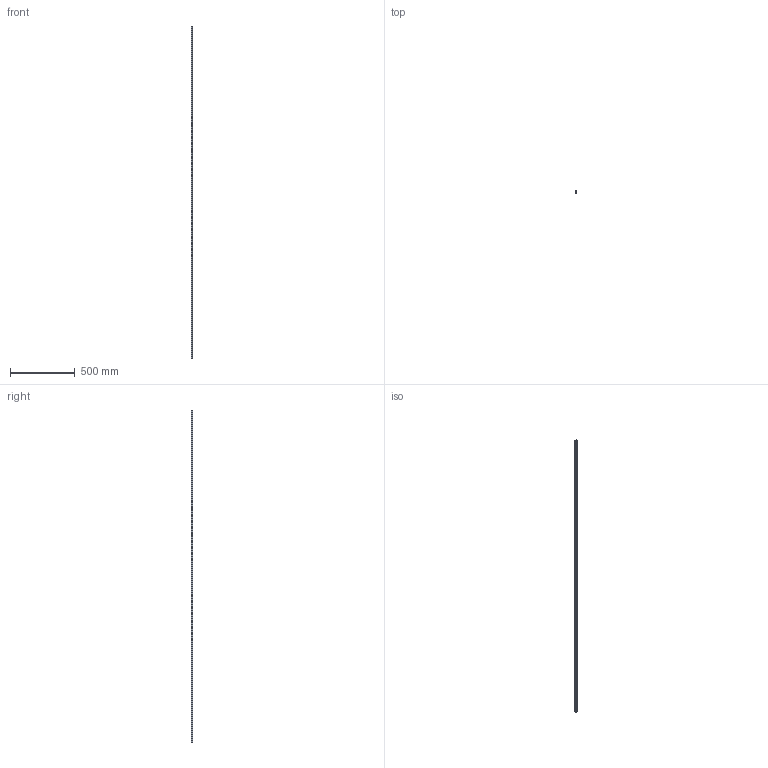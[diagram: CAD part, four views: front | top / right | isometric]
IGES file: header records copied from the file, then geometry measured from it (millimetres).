
Start section: SolidWorks IGES file using analytic representation for surfaces
Global section: file name: C:\Users\IanO\Desktop\L1016_v2\L1016.BL15_v2\L1016.BL15_v2_20190611_IGES\L1016.BL15-2560.igs; native system: SolidWorks 2017; preprocessor: SolidWorks 2017; author: IanO; date: 190612.123248; units: millimetre
Bounding box: 15 x 13 x 2560 mm (x, y, z)
Surface area: 156405.5 mm2 (no closed solid volume)
Topology: 0 solids, 0 shells, 241 faces, 6344 edges, 6344 vertices
Faces by surface type: revolution 176, bspline 65
